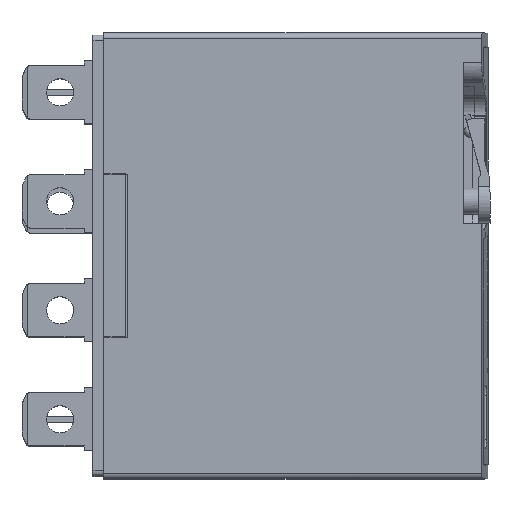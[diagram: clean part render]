
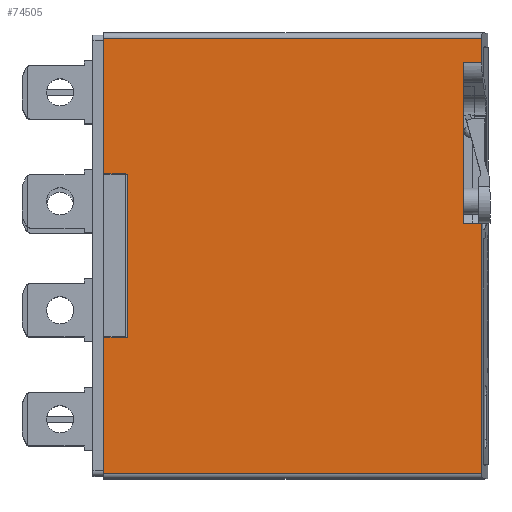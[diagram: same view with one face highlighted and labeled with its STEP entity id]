
A CAD part, top view. The second image highlights one B-rep face of the part: STEP entity #74505.
In plain terms, the highlighted planar face has unit normal (0, 0, 1).
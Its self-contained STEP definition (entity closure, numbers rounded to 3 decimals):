
#465 = DIRECTION ( 'NONE',  ( -1., 0., 0. ) ) ;
#1284 = VECTOR ( 'NONE', #2988, 1000. ) ;
#2988 = DIRECTION ( 'NONE',  ( 1., 0., 0. ) ) ;
#3024 = EDGE_CURVE ( 'NONE', #52039, #21020, #67738, .T. ) ;
#3377 = LINE ( 'NONE', #61853, #66872 ) ;
#3694 = CARTESIAN_POINT ( 'NONE',  ( 34., 23.25, 26.6 ) ) ;
#4069 = ORIENTED_EDGE ( 'NONE', *, *, #35728, .F. ) ;
#4465 = EDGE_CURVE ( 'NONE', #49236, #52039, #38845, .T. ) ;
#5355 = VERTEX_POINT ( 'NONE', #3694 ) ;
#6374 = LINE ( 'NONE', #49476, #11885 ) ;
#8310 = LINE ( 'NONE', #20823, #64803 ) ;
#8340 = EDGE_CURVE ( 'NONE', #63176, #49236, #72203, .T. ) ;
#8784 = VERTEX_POINT ( 'NONE', #19658 ) ;
#8842 = EDGE_CURVE ( 'NONE', #8784, #15462, #8310, .T. ) ;
#9392 = EDGE_CURVE ( 'NONE', #28852, #54450, #54818, .T. ) ;
#9398 = LINE ( 'NONE', #45124, #31516 ) ;
#10703 = EDGE_CURVE ( 'NONE', #20353, #54450, #20238, .T. ) ;
#11118 = DIRECTION ( 'NONE',  ( -1., 0., 0. ) ) ;
#11885 = VECTOR ( 'NONE', #465, 1000. ) ;
#12142 = CARTESIAN_POINT ( 'NONE',  ( 1., 27.75, 26.6 ) ) ;
#12197 = VECTOR ( 'NONE', #11118, 1000. ) ;
#12560 = EDGE_CURVE ( 'NONE', #29751, #63176, #9398, .T. ) ;
#13527 = VECTOR ( 'NONE', #37965, 1000. ) ;
#14764 = CARTESIAN_POINT ( 'NONE',  ( 35.7, 23.25, 26.6 ) ) ;
#15462 = VERTEX_POINT ( 'NONE', #73394 ) ;
#19658 = CARTESIAN_POINT ( 'NONE',  ( 34., 37.971, 26.6 ) ) ;
#20238 = LINE ( 'NONE', #56779, #1284 ) ;
#20353 = VERTEX_POINT ( 'NONE', #52118 ) ;
#20370 = VECTOR ( 'NONE', #43608, 1000. ) ;
#20823 = CARTESIAN_POINT ( 'NONE',  ( 1., 37.971, 26.6 ) ) ;
#20995 = DIRECTION ( 'NONE',  ( 0., -1., 0. ) ) ;
#21020 = VERTEX_POINT ( 'NONE', #34315 ) ;
#22814 = VECTOR ( 'NONE', #72120, 1000. ) ;
#25603 = CARTESIAN_POINT ( 'NONE',  ( 3.2, 12.75, 26.6 ) ) ;
#25889 = CARTESIAN_POINT ( 'NONE',  ( 3.2, 20.25, 26.6 ) ) ;
#25947 = DIRECTION ( 'NONE',  ( 1., 0., 0. ) ) ;
#26158 = CARTESIAN_POINT ( 'NONE',  ( 1., 12.75, 26.6 ) ) ;
#26163 = ORIENTED_EDGE ( 'NONE', *, *, #55208, .T. ) ;
#26219 = ORIENTED_EDGE ( 'NONE', *, *, #65814, .T. ) ;
#28852 = VERTEX_POINT ( 'NONE', #14764 ) ;
#28872 = CARTESIAN_POINT ( 'NONE',  ( 1., 40.2, 26.6 ) ) ;
#29193 = ORIENTED_EDGE ( 'NONE', *, *, #9392, .F. ) ;
#29751 = VERTEX_POINT ( 'NONE', #28872 ) ;
#31516 = VECTOR ( 'NONE', #50958, 1000. ) ;
#34315 = CARTESIAN_POINT ( 'NONE',  ( 1., 12.75, 26.6 ) ) ;
#35072 = ORIENTED_EDGE ( 'NONE', *, *, #4465, .T. ) ;
#35120 = CARTESIAN_POINT ( 'NONE',  ( 35.7, 40.2, 26.6 ) ) ;
#35728 = EDGE_CURVE ( 'NONE', #39076, #15462, #3377, .T. ) ;
#36518 = ORIENTED_EDGE ( 'NONE', *, *, #8842, .T. ) ;
#37965 = DIRECTION ( 'NONE',  ( 0., -1., 0. ) ) ;
#38845 = LINE ( 'NONE', #25889, #43243 ) ;
#39076 = VERTEX_POINT ( 'NONE', #35120 ) ;
#41742 = LINE ( 'NONE', #70774, #12197 ) ;
#43177 = ORIENTED_EDGE ( 'NONE', *, *, #8340, .T. ) ;
#43243 = VECTOR ( 'NONE', #74147, 1000. ) ;
#43608 = DIRECTION ( 'NONE',  ( 0., 1., 0. ) ) ;
#45124 = CARTESIAN_POINT ( 'NONE',  ( 1., 20.25, 26.6 ) ) ;
#47898 = FACE_OUTER_BOUND ( 'NONE', #55965, .T. ) ;
#49005 = LINE ( 'NONE', #72584, #59701 ) ;
#49236 = VERTEX_POINT ( 'NONE', #56695 ) ;
#49310 = CARTESIAN_POINT ( 'NONE',  ( 35.7, 49.8, 26.6 ) ) ;
#49476 = CARTESIAN_POINT ( 'NONE',  ( 1., 40.2, 26.6 ) ) ;
#50958 = DIRECTION ( 'NONE',  ( 0., -1., 0. ) ) ;
#51621 = ORIENTED_EDGE ( 'NONE', *, *, #66497, .T. ) ;
#51768 = AXIS2_PLACEMENT_3D ( 'NONE', #55339, #57226, #74854 ) ;
#52039 = VERTEX_POINT ( 'NONE', #25603 ) ;
#52118 = CARTESIAN_POINT ( 'NONE',  ( 1., 0.3, 26.6 ) ) ;
#53933 = EDGE_CURVE ( 'NONE', #5355, #8784, #66327, .T. ) ;
#54104 = DIRECTION ( 'NONE',  ( 1., 0., 0. ) ) ;
#54450 = VERTEX_POINT ( 'NONE', #55459 ) ;
#54818 = LINE ( 'NONE', #49310, #13527 ) ;
#55208 = EDGE_CURVE ( 'NONE', #39076, #29751, #6374, .T. ) ;
#55339 = CARTESIAN_POINT ( 'NONE',  ( 1., 20.25, 26.6 ) ) ;
#55459 = CARTESIAN_POINT ( 'NONE',  ( 35.7, 0.3, 26.6 ) ) ;
#55965 = EDGE_LOOP ( 'NONE', ( #29193, #51621, #72659, #36518, #4069, #26163, #62916, #43177, #35072, #74058, #26219, #67365 ) ) ;
#56695 = CARTESIAN_POINT ( 'NONE',  ( 3.2, 27.75, 26.6 ) ) ;
#56779 = CARTESIAN_POINT ( 'NONE',  ( 1., 0.3, 26.6 ) ) ;
#57226 = DIRECTION ( 'NONE',  ( 0., 0., 1. ) ) ;
#59701 = VECTOR ( 'NONE', #73741, 1000. ) ;
#60480 = CARTESIAN_POINT ( 'NONE',  ( 34., 20.25, 26.6 ) ) ;
#61853 = CARTESIAN_POINT ( 'NONE',  ( 35.7, 49.8, 26.6 ) ) ;
#62916 = ORIENTED_EDGE ( 'NONE', *, *, #12560, .T. ) ;
#63176 = VERTEX_POINT ( 'NONE', #67588 ) ;
#64803 = VECTOR ( 'NONE', #25947, 1000. ) ;
#65814 = EDGE_CURVE ( 'NONE', #21020, #20353, #49005, .T. ) ;
#66327 = LINE ( 'NONE', #60480, #20370 ) ;
#66497 = EDGE_CURVE ( 'NONE', #28852, #5355, #41742, .T. ) ;
#66872 = VECTOR ( 'NONE', #20995, 1000. ) ;
#67365 = ORIENTED_EDGE ( 'NONE', *, *, #10703, .T. ) ;
#67588 = CARTESIAN_POINT ( 'NONE',  ( 1., 27.75, 26.6 ) ) ;
#67738 = LINE ( 'NONE', #26158, #22814 ) ;
#70774 = CARTESIAN_POINT ( 'NONE',  ( 1., 23.25, 26.6 ) ) ;
#72120 = DIRECTION ( 'NONE',  ( -1., 0., 0. ) ) ;
#72203 = LINE ( 'NONE', #12142, #73503 ) ;
#72584 = CARTESIAN_POINT ( 'NONE',  ( 1., 20.25, 26.6 ) ) ;
#72659 = ORIENTED_EDGE ( 'NONE', *, *, #53933, .T. ) ;
#73394 = CARTESIAN_POINT ( 'NONE',  ( 35.7, 37.971, 26.6 ) ) ;
#73503 = VECTOR ( 'NONE', #54104, 1000. ) ;
#73741 = DIRECTION ( 'NONE',  ( 0., -1., 0. ) ) ;
#74058 = ORIENTED_EDGE ( 'NONE', *, *, #3024, .T. ) ;
#74147 = DIRECTION ( 'NONE',  ( 0., -1., 0. ) ) ;
#74505 = ADVANCED_FACE ( 'NONE', ( #47898 ), #76995, .T. ) ;
#74854 = DIRECTION ( 'NONE',  ( 0., -1., 0. ) ) ;
#76995 = PLANE ( 'NONE',  #51768 ) ;
